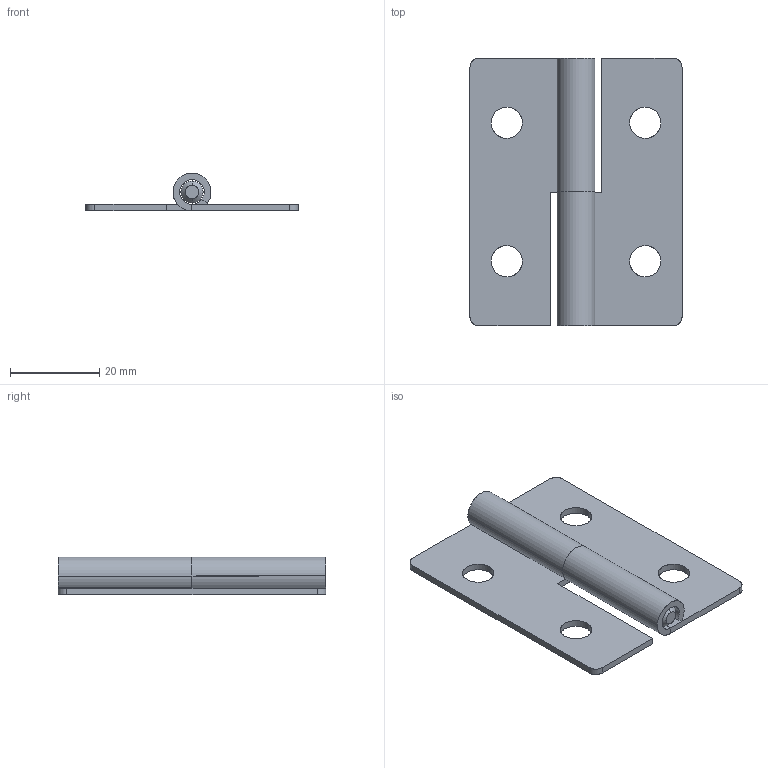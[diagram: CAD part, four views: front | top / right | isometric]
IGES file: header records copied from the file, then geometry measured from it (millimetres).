
Start section: SolidWorks IGES file using analytic representation for surfaces
Global section: file name: E:\DATA FOLDER FOR WEB-2015\'D' SECTION\DRAWING\DHLOM\DHLOM-6048\DHLOM-6048-R-BZ.IGS; native system: SolidWorks 2019; preprocessor: SolidWorks 2019; author: solidworksqc; date: 200704.103618; units: millimetre
Bounding box: 47.5 x 60 x 8.5 mm (x, y, z)
Surface area: 8647.2 mm2 (no closed solid volume)
Topology: 0 solids, 0 shells, 52 faces, 808 edges, 808 vertices
Faces by surface type: revolution 30, bspline 22
